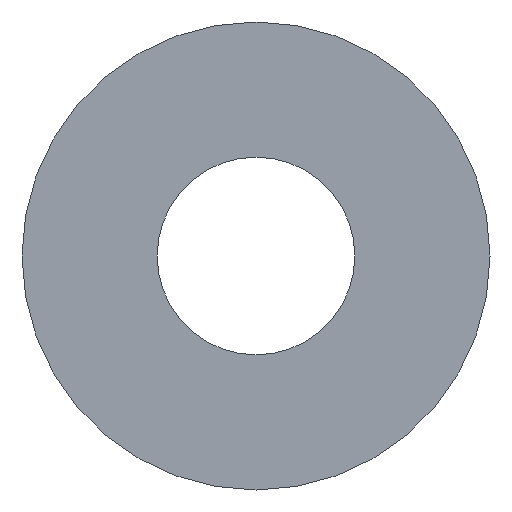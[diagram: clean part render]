
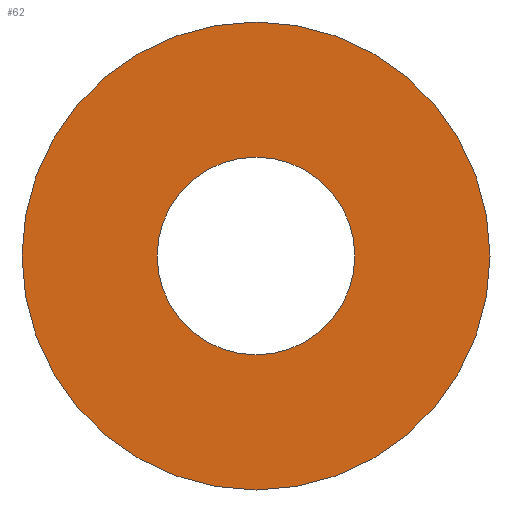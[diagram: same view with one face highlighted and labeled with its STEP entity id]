
A CAD part, front view. The second image highlights one B-rep face of the part: STEP entity #62.
In plain terms, the highlighted planar face has unit normal (0, -1, 0).
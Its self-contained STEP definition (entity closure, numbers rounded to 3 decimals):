
#20=PLANE('',#83);
#26=ORIENTED_EDGE('',*,*,#30,.T.);
#27=ORIENTED_EDGE('',*,*,#32,.F.);
#30=EDGE_CURVE('',#34,#34,#38,.T.);
#32=EDGE_CURVE('',#36,#36,#40,.T.);
#34=VERTEX_POINT('',#106);
#36=VERTEX_POINT('',#111);
#38=CIRCLE('',#78,15.);
#40=CIRCLE('',#81,35.5);
#46=EDGE_LOOP('',(#26));
#47=EDGE_LOOP('',(#27));
#54=FACE_BOUND('',#46,.T.);
#55=FACE_BOUND('',#47,.T.);
#62=ADVANCED_FACE('',(#54,#55),#20,.F.);
#78=AXIS2_PLACEMENT_3D('',#105,#89,#90);
#81=AXIS2_PLACEMENT_3D('',#110,#95,#96);
#83=AXIS2_PLACEMENT_3D('',#114,#99,#100);
#89=DIRECTION('',(0.,1.,0.));
#90=DIRECTION('',(1.,0.,0.));
#95=DIRECTION('',(0.,1.,0.));
#96=DIRECTION('',(1.,0.,0.));
#99=DIRECTION('',(0.,1.,0.));
#100=DIRECTION('',(0.,0.,1.));
#105=CARTESIAN_POINT('',(0.,-1.5,0.));
#106=CARTESIAN_POINT('',(15.,-1.5,0.));
#110=CARTESIAN_POINT('',(0.,-1.5,0.));
#111=CARTESIAN_POINT('',(35.5,-1.5,0.));
#114=CARTESIAN_POINT('',(0.,-1.5,0.));
